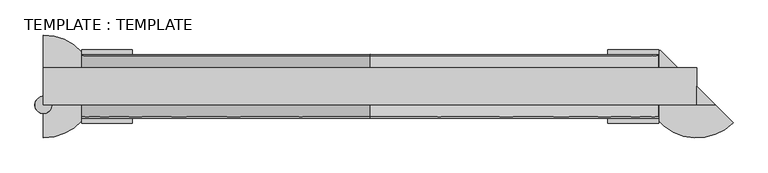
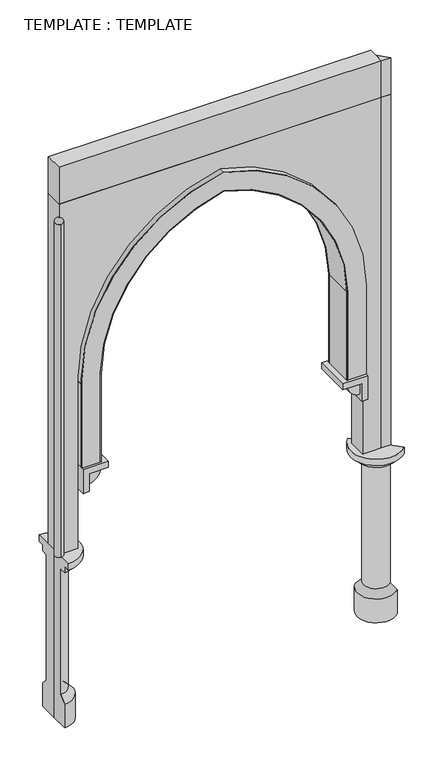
"""IFC4 building model written with IfcOpenShell, lengths in millimetres: plate geometry, TEMPLATE : TEMPLATE."""

from ifc_helpers import new_model, si_unit, point, frame, frame_2d, origin, place, context, project, spatial, polyline, circle_curve, ellipse_curve, trimmed, segment, composite_curve, outline, extrude, source, transform, mapped, element, save
from ifc_brep_helpers import plane_surface, cylinder_surface, revolved_surface, advanced_brep


def template_template_36c4455a(model_context):
    return source(origin(), model_context, "Body", "SolidModel", [
        extrude(outline(polyline([(1321.2450521, -71.2450521), (1250.0, -71.2450521), (1250.0, 0.0), (1321.2450521, -71.2450521)])), frame((0.0, 0.0, 4250.0), z_axis=(0.0, 0.0, 1.0), x_axis=(1.0, 0.0, 0.0)), (0.0, 0.0, 1.0), 300.0),
        extrude(outline(polyline([(1250.0, 71.2450521), (1250.0, -71.2450521), (-1250.0, -71.2450521), (-1250.0, 71.2450521), (1250.0, 71.2450521)])), frame((0.0, 0.0, 4250.0), z_axis=(0.0, 0.0, 1.0), x_axis=(1.0, 0.0, 0.0)), (0.0, 0.0, 1.0), 300.0),
        advanced_brep(
        [(-1250.0, -38.7797743, 4103.90625), (-1250.0, -103.7103299, 4103.90625)],
        [
            (0, 1, circle_curve(frame((-1250.0, -71.2450521, 4103.90625), z_axis=(0.0, 0.0, -1.0), x_axis=(-1.0, 0.0, 0.0)), 32.4652778)),
            (1, 0),
            (1, 0, circle_curve(frame((-1250.0, -71.2450521, 4103.90625), z_axis=(0.0, 0.0, -1.0), x_axis=(1.0, 0.0, 0.0)), 32.4652778)),
        ],
        [
            plane_surface(frame((-1250.0, 122.2362565, 4103.90625), z_axis=(0.0, 0.0, -1.0), x_axis=(1.0, 0.0, 0.0))),
            plane_surface(frame((-1250.0, 122.2362565, 4103.90625), z_axis=(0.0, 0.0, -1.0), x_axis=(-1.0, 0.0, 0.0))),
            revolved_surface(trimmed(ellipse_curve(frame((-1250.0, -71.2450521, 4103.90625), z_axis=(0.0, 0.0, -1.0), x_axis=(-1.0, 0.0, 0.0)), 32.4652778, 32.4652778), [point((-1250.0, -38.7797743, 4103.90625))], [point((-1250.0, -103.7103299, 4103.90625))], True, "CARTESIAN"), (-1250.0, 122.2362565, 4103.90625), (0.0, -1.0, 0.0)),
        ],
        [
            (0, [[1, 2]]),
            (1, [[-2, 3]]),
            (2, [[-3, -1]]),
        ],
    ),
        extrude(outline(composite_curve([segment(trimmed(circle_curve(frame_2d((-1250.0, -71.2450521)), 32.4652778), [point((-1250.0, -103.7103299))], [point((-1250.0, -38.7797743))], False, "CARTESIAN"), True, "CONTINUOUS"), segment(trimmed(circle_curve(frame_2d((-1250.0, -71.2450521)), 32.4652778), [point((-1250.0, -38.7797743))], [point((-1250.0, -103.7103299))], False, "CARTESIAN"), True, "CONTINUOUS")], self_intersect=False)), frame((0.0, 0.0, 1375.0), z_axis=(0.0, 0.0, 1.0), x_axis=(1.0, 0.0, 0.0)), (0.0, 0.0, 1.0), 2728.90625),
        extrude(outline(composite_curve([segment(polyline([(2062.5, -1103.90625), (2062.5, -952.8125), (2789.7201638, -952.8125)]), True, "CONTINUOUS"), segment(trimmed(circle_curve(frame_2d((2770.9553186, 249.8536177)), 1202.8125), [point((2789.7201638, -952.8125))], [point((3947.5313169, 0.0))], True, "CARTESIAN"), True, "CONTINUOUS"), segment(trimmed(circle_curve(frame_2d((2770.9553186, -249.8536177)), 1202.8125), [point((3947.5313169, 0.0))], [point((2789.7201638, 952.8125))], True, "CARTESIAN"), True, "CONTINUOUS"), segment(polyline([(2789.7201638, 952.8125), (2062.5, 952.8125), (2062.5, 1103.90625), (2751.0466695, 1103.90625)]), True, "CONTINUOUS"), segment(trimmed(circle_curve(frame_2d((2770.9553186, -249.8536177)), 1353.90625), [point((2751.0466695, 1103.90625))], [point((4101.6075284, 0.0))], False, "CARTESIAN"), True, "CONTINUOUS"), segment(trimmed(circle_curve(frame_2d((2770.9553186, 249.8536177)), 1353.90625), [point((4101.6075284, 0.0))], [point((2751.0466695, -1103.90625))], False, "CARTESIAN"), True, "CONTINUOUS"), segment(polyline([(2751.0466695, -1103.90625), (2062.5, -1103.90625)]), True, "CONTINUOUS")], self_intersect=False)), frame((0.0, 116.8675781, 0.0), z_axis=(0.0, 1.0, 0.0), x_axis=(0.0, 0.0, 1.0)), (0.0, 0.0, 1.0), 5.0),
        extrude(outline(polyline([(1250.0, 0.0), (1321.2450521, -71.2450521), (1250.0, -71.2450521), (1250.0, 0.0)])), frame((0.0, 0.0, 1375.0), z_axis=(0.0, 0.0, 1.0), x_axis=(1.0, 0.0, 0.0)), (0.0, 0.0, 1.0), 2875.0),
        extrude(outline(composite_curve([segment(polyline([(2789.6812853, 952.813106), (2789.7591277, 957.8125)]), True, "CONTINUOUS"), segment(trimmed(circle_curve(frame_2d((2770.9553186, -249.8536177)), 1207.8125), [point((2789.7591277, 957.8125))], [point((3952.642335, 0.0))], False, "CARTESIAN"), True, "CONTINUOUS"), segment(trimmed(circle_curve(frame_2d((2770.9553186, 249.8536177)), 1207.8125), [point((3952.642335, 0.0))], [point((2789.7591277, -957.8125))], False, "CARTESIAN"), True, "CONTINUOUS"), segment(polyline([(2789.7591277, -957.8125), (2789.6812853, -952.813106)]), True, "CONTINUOUS"), segment(trimmed(circle_curve(frame_2d((2770.9553186, 249.8536177)), 1202.8125), [point((2789.6812853, -952.813106))], [point((3947.5313169, 0.0))], True, "CARTESIAN"), True, "CONTINUOUS"), segment(trimmed(circle_curve(frame_2d((2770.9553186, -249.8536177)), 1202.8125), [point((3947.5313169, 0.0))], [point((2789.6812853, 952.813106))], True, "CARTESIAN"), True, "CONTINUOUS")], self_intersect=False)), frame((0.0, -121.8675781, 0.0), z_axis=(0.0, 1.0, 0.0), x_axis=(0.0, 0.0, 1.0)), (0.0, 0.0, 1.0), 238.7351563),
        extrude(outline(polyline([(957.8125, 116.8675781), (957.8125, -121.8675781), (952.8125, -121.8675781), (952.8125, 116.8675781), (957.8125, 116.8675781)])), frame((0.0, 0.0, 2062.5), z_axis=(0.0, 0.0, 1.0), x_axis=(1.0, 0.0, 0.0)), (0.0, 0.0, 1.0), 727.2591277),
        extrude(outline(polyline([(-952.8125, 116.8675781), (-952.8125, -121.8675781), (-957.8125, -121.8675781), (-957.8125, 116.8675781), (-952.8125, 116.8675781)])), frame((0.0, 0.0, 2062.5), z_axis=(0.0, 0.0, 1.0), x_axis=(1.0, 0.0, 0.0)), (0.0, 0.0, 1.0), 727.2591277),
        extrude(outline(composite_curve([segment(polyline([(2013.8020833, 1055.2083333), (2013.8020833, 957.8125)]), True, "CONTINUOUS"), segment(trimmed(circle_curve(frame_2d((2013.8020833, 1055.2083333)), 97.3958333), [point((2013.8020833, 957.8125))], [point((1916.40625, 1055.2083333))], False, "CARTESIAN"), True, "CONTINUOUS"), segment(polyline([(1916.40625, 1055.2083333), (2013.8020833, 1055.2083333)]), True, "CONTINUOUS")], self_intersect=False)), frame((0.0, -121.8675781, 0.0), z_axis=(0.0, 1.0, 0.0), x_axis=(0.0, 0.0, 1.0)), (0.0, 0.0, 1.0), 238.7351563),
        extrude(outline(composite_curve([segment(polyline([(2013.8020833, -1055.2083333), (1916.40625, -1055.2083333)]), True, "CONTINUOUS"), segment(trimmed(circle_curve(frame_2d((2013.8020833, -1055.2083333)), 97.3958333), [point((1916.40625, -1055.2083333))], [point((2013.8020833, -957.8125))], False, "CARTESIAN"), True, "CONTINUOUS"), segment(polyline([(2013.8020833, -957.8125), (2013.8020833, -1055.2083333)]), True, "CONTINUOUS")], self_intersect=False)), frame((0.0, -121.8675781, 0.0), z_axis=(0.0, 1.0, 0.0), x_axis=(0.0, 0.0, 1.0)), (0.0, 0.0, 1.0), 238.7351563),
        advanced_brep(
        [(-1250.0, 196.7395833, 1375.0), (-1250.0, 196.7395833, 1324.3541667), (-1250.0, 146.09375, 1324.3541667), (-1250.0, 146.09375, 1273.7083333), (-1250.0, 97.3958333, 1273.7083333), (-1250.0, 97.3958333, 245.4375), (-1250.0, 146.09375, 194.7916667), (-1250.0, 146.09375, 0.0), (-1250.0, 0.0, 0.0), (-1250.0, 0.0, 1375.0), (-1250.0, -196.7395833, 1375.0), (-1250.0, -146.09375, 0.0), (-1250.0, -146.09375, 194.7916667), (-1250.0, -97.3958333, 245.4375), (-1250.0, -97.3958333, 1273.7083333), (-1250.0, -146.09375, 1273.7083333), (-1250.0, -146.09375, 1324.3541667), (-1250.0, -196.7395833, 1324.3541667)],
        [
            (0, 1),
            (1, 2),
            (2, 3),
            (3, 4),
            (4, 5),
            (5, 6),
            (6, 7),
            (7, 8),
            (8, 9),
            (9, 0),
            (10, 9),
            (8, 11),
            (11, 12),
            (12, 13),
            (13, 14),
            (14, 15),
            (15, 16),
            (16, 17),
            (17, 10),
            (17, 1, circle_curve(frame((-1250.0, 0.0, 1324.3541667), z_axis=(0.0, 0.0, 1.0), x_axis=(0.0, 1.0000000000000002, 0.0)), 196.7395833)),
            (0, 10, circle_curve(frame((-1250.0, 0.0, 1375.0), z_axis=(0.0, 0.0, -1.0), x_axis=(0.0, 1.0000000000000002, 0.0)), 196.7395833)),
            (16, 2, circle_curve(frame((-1250.0, 0.0, 1324.3541667), z_axis=(0.0, 0.0, 1.0), x_axis=(0.0, 1.0000000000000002, 0.0)), 146.09375)),
            (15, 3, circle_curve(frame((-1250.0, 0.0, 1273.7083333), z_axis=(0.0, 0.0, 1.0), x_axis=(0.0, 1.0000000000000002, 0.0)), 146.09375)),
            (14, 4, circle_curve(frame((-1250.0, 0.0, 1273.7083333), z_axis=(0.0, 0.0, 1.0), x_axis=(0.0, 1.0000000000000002, 0.0)), 97.3958333)),
            (13, 5, circle_curve(frame((-1250.0, 0.0, 245.4375), z_axis=(0.0, 0.0, 1.0), x_axis=(0.0, 1.0000000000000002, 0.0)), 97.3958333)),
            (12, 6, circle_curve(frame((-1250.0, 0.0, 194.7916667), z_axis=(0.0, 0.0, 1.0), x_axis=(0.0, 1.0000000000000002, 0.0)), 146.09375)),
            (11, 7, circle_curve(frame((-1250.0, 0.0, 0.0), z_axis=(0.0, 0.0, 1.0), x_axis=(0.0, 1.0000000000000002, 0.0)), 146.09375)),
        ],
        [
            plane_surface(frame((-1250.0, 0.0, -1400.0), z_axis=(-1.0, 0.0, 0.0), x_axis=(0.0, 1.0, 0.0))),
            plane_surface(frame((-1250.0, 0.0, -1400.0), z_axis=(-1.0, 0.0, 0.0), x_axis=(0.0, -1.0, 0.0))),
            cylinder_surface(frame((-1250.0, 0.0, -1400.0), z_axis=(0.0, 0.0, 1.0), x_axis=(0.0, 1.0000000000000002, 0.0)), 196.7395833),
            plane_surface(frame((-1250.0, 0.0, 1324.3541667), z_axis=(0.0, 0.0, -1.0), x_axis=(0.0, 1.0, 0.0))),
            cylinder_surface(frame((-1250.0, 0.0, -1400.0), z_axis=(0.0, 0.0, 1.0), x_axis=(0.0, 1.0000000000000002, 0.0)), 146.09375),
            plane_surface(frame((-1250.0, 0.0, 1273.7083333), z_axis=(0.0, 0.0, -1.0), x_axis=(0.0, 1.0, 0.0))),
            cylinder_surface(frame((-1250.0, 0.0, -1400.0), z_axis=(0.0, 0.0, 1.0), x_axis=(0.0, 1.0000000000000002, 0.0)), 97.3958333),
            revolved_surface(polyline([(-1250.0, 146.09375, 194.7916667), (-1250.0, 97.3958333, 245.4375)]), (-1250.0, 0.0, -1400.0), (0.0, 0.0, 1.0)),
            plane_surface(frame((-1250.0, 0.0, 0.0), z_axis=(0.0, 0.0, -1.0), x_axis=(0.0, 1.0, 0.0))),
            plane_surface(frame((-1250.0, 0.0, 1375.0), z_axis=(0.0, 0.0, 1.0), x_axis=(0.0, 1.0, 0.0))),
        ],
        [
            (0, [[1, 2, 3, 4, 5, 6, 7, 8, 9, 10]]),
            (1, [[11, -9, 12, 13, 14, 15, 16, 17, 18, 19]]),
            (2, [[-19, 20, -1, 21]]),
            (3, [[-18, 22, -2, -20]]),
            (4, [[-17, 23, -3, -22]]),
            (5, [[-16, 24, -4, -23]]),
            (6, [[-15, 25, -5, -24]]),
            (7, [[-14, 26, -6, -25]]),
            (4, [[-13, 27, -7, -26]]),
            (8, [[-12, -8, -27]]),
            (9, [[-11, -21, -10]]),
        ],
    ),
        extrude(outline(polyline([(2062.5, 1103.90625), (2062.5, 909.1145833), (2013.8020833, 909.1145833), (2013.8020833, 1055.2083333), (1867.7083333, 1055.2083333), (1867.7083333, 1103.90625), (2062.5, 1103.90625)])), frame((0.0, -141.2165365, 0.0), z_axis=(0.0, 1.0, 0.0), x_axis=(0.0, 0.0, 1.0)), (0.0, 0.0, 1.0), 282.4330729),
        extrude(outline(polyline([(2062.5, -1103.90625), (1867.7083333, -1103.90625), (1867.7083333, -1055.2083333), (2013.8020833, -1055.2083333), (2013.8020833, -909.1145833), (2062.5, -909.1145833), (2062.5, -1103.90625)])), frame((0.0, -141.2165365, 0.0), z_axis=(0.0, 1.0, 0.0), x_axis=(0.0, 0.0, 1.0)), (0.0, 0.0, 1.0), 282.4330729),
        advanced_brep(
        [(1110.8841065, 139.1158935, 1375.0), (1250.0, 0.0, 1375.0), (1250.0, 0.0, 0.0), (1146.6961187, 103.3038813, 0.0), (1146.6961187, 103.3038813, 194.7916667), (1181.1307458, 68.8692542, 245.4375), (1181.1307458, 68.8692542, 1273.7083333), (1146.6961187, 103.3038813, 1273.7083333), (1146.6961187, 103.3038813, 1324.3541667), (1110.8841065, 139.1158935, 1324.3541667), (1389.1158935, -139.1158935, 1375.0), (1389.1158935, -139.1158935, 1324.3541667), (1353.3038813, -103.3038813, 1324.3541667), (1353.3038813, -103.3038813, 1273.7083333), (1318.8692542, -68.8692542, 1273.7083333), (1318.8692542, -68.8692542, 245.4375), (1353.3038813, -103.3038813, 194.7916667), (1353.3038813, -103.3038813, 0.0)],
        [
            (0, 1),
            (1, 2),
            (2, 3),
            (3, 4),
            (4, 5),
            (5, 6),
            (6, 7),
            (7, 8),
            (8, 9),
            (9, 0),
            (10, 11),
            (11, 12),
            (12, 13),
            (13, 14),
            (14, 15),
            (15, 16),
            (16, 17),
            (17, 2),
            (1, 10),
            (10, 0, circle_curve(frame((1250.0, 0.0, 1375.0), z_axis=(0.0, 0.0, -1.0), x_axis=(-0.7071067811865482, 0.707106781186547, 0.0)), 196.7395833)),
            (9, 11, circle_curve(frame((1250.0, 0.0, 1324.3541667), z_axis=(0.0, 0.0, 1.0), x_axis=(-0.7071067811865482, 0.707106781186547, 0.0)), 196.7395833)),
            (8, 12, circle_curve(frame((1250.0, 0.0, 1324.3541667), z_axis=(0.0, 0.0, 1.0), x_axis=(-0.7071067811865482, 0.707106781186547, 0.0)), 146.09375)),
            (7, 13, circle_curve(frame((1250.0, 0.0, 1273.7083333), z_axis=(0.0, 0.0, 1.0), x_axis=(-0.7071067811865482, 0.707106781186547, 0.0)), 146.09375)),
            (6, 14, circle_curve(frame((1250.0, 0.0, 1273.7083333), z_axis=(0.0, 0.0, 1.0), x_axis=(-0.7071067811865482, 0.707106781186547, 0.0)), 97.3958333)),
            (5, 15, circle_curve(frame((1250.0, 0.0, 245.4375), z_axis=(0.0, 0.0, 1.0), x_axis=(-0.7071067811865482, 0.707106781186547, 0.0)), 97.3958333)),
            (4, 16, circle_curve(frame((1250.0, 0.0, 194.7916667), z_axis=(0.0, 0.0, 1.0), x_axis=(-0.7071067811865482, 0.707106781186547, 0.0)), 146.09375)),
            (3, 17, circle_curve(frame((1250.0, 0.0, 0.0), z_axis=(0.0, 0.0, 1.0), x_axis=(-0.7071067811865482, 0.707106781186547, 0.0)), 146.09375)),
        ],
        [
            plane_surface(frame((1250.0, 0.0, -1400.0), z_axis=(0.707106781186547, 0.7071067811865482, 0.0), x_axis=(-0.7071067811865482, 0.707106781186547, 0.0))),
            plane_surface(frame((1250.0, 0.0, -1400.0), z_axis=(0.7071067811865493, 0.7071067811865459, 0.0), x_axis=(0.7071067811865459, -0.7071067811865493, 0.0))),
            cylinder_surface(frame((1250.0, 0.0, -1400.0), z_axis=(0.0, 0.0, -1.0), x_axis=(-0.7071067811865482, 0.707106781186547, 0.0)), 196.7395833),
            plane_surface(frame((1250.0, 0.0, 1324.3541667), z_axis=(0.0, 0.0, -1.0000000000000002), x_axis=(-0.7071067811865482, 0.707106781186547, 0.0))),
            cylinder_surface(frame((1250.0, 0.0, -1400.0), z_axis=(0.0, 0.0, -1.0), x_axis=(-0.7071067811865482, 0.707106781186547, 0.0)), 146.09375),
            plane_surface(frame((1250.0, 0.0, 1273.7083333), z_axis=(0.0, 0.0, -1.0000000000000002), x_axis=(-0.7071067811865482, 0.707106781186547, 0.0))),
            cylinder_surface(frame((1250.0, 0.0, -1400.0), z_axis=(0.0, 0.0, -1.0), x_axis=(-0.7071067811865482, 0.707106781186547, 0.0)), 97.3958333),
            revolved_surface(polyline([(1181.1307458, 68.8692542, 245.4375), (1146.6961187, 103.3038813, 194.7916667)]), (1250.0, 0.0, -1400.0), (0.0, 0.0, -1.0)),
            plane_surface(frame((1250.0, 0.0, 0.0), z_axis=(0.0, 0.0, -1.0000000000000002), x_axis=(-0.7071067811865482, 0.707106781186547, 0.0))),
            plane_surface(frame((1250.0, 0.0, 1375.0), z_axis=(0.0, 0.0, 1.0000000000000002), x_axis=(-0.7071067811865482, 0.707106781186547, 0.0))),
        ],
        [
            (0, [[1, 2, 3, 4, 5, 6, 7, 8, 9, 10]]),
            (1, [[11, 12, 13, 14, 15, 16, 17, 18, -2, 19]]),
            (2, [[-11, 20, -10, 21]]),
            (3, [[-12, -21, -9, 22]]),
            (4, [[-13, -22, -8, 23]]),
            (5, [[-14, -23, -7, 24]]),
            (6, [[-15, -24, -6, 25]]),
            (7, [[-16, -25, -5, 26]]),
            (4, [[-17, -26, -4, 27]]),
            (8, [[-18, -27, -3]]),
            (9, [[-19, -1, -20]]),
        ],
    ),
        extrude(outline(composite_curve([segment(polyline([(1375.0, 1250.0), (4250.0, 1250.0), (4250.0, -1250.0), (1375.0, -1250.0), (1375.0, -1103.90625), (2790.8639676, -1103.90625)]), True, "CONTINUOUS"), segment(trimmed(circle_curve(frame_2d((2770.9553186, 249.8536177)), 1353.90625), [point((2790.8639676, -1103.90625))], [point((4101.6075284, 0.0))], True, "CARTESIAN"), True, "CONTINUOUS"), segment(trimmed(circle_curve(frame_2d((2770.9553186, -249.8536177)), 1353.90625), [point((4101.6075284, 0.0))], [point((2790.8639676, 1103.90625))], True, "CARTESIAN"), True, "CONTINUOUS"), segment(polyline([(2790.8639676, 1103.90625), (1375.0, 1103.90625), (1375.0, 1250.0)]), True, "CONTINUOUS")], self_intersect=False)), frame((0.0, -71.2450521, 0.0), z_axis=(0.0, 1.0, 0.0), x_axis=(0.0, 0.0, 1.0)), (0.0, 0.0, 1.0), 142.4901042),
        extrude(outline(composite_curve([segment(trimmed(circle_curve(frame_2d((2770.9553186, 249.8536177)), 1353.90625), [point((4101.6075284, 0.0))], [point((2790.8639676, -1103.90625))], False, "CARTESIAN"), True, "CONTINUOUS"), segment(polyline([(2790.8639676, -1103.90625), (2062.5, -1103.90625), (2062.5, -957.8125), (2789.7591277, -957.8125)]), True, "CONTINUOUS"), segment(trimmed(circle_curve(frame_2d((2770.9553186, 249.8536177)), 1207.8125), [point((2789.7591277, -957.8125))], [point((3952.642335, 0.0))], True, "CARTESIAN"), True, "CONTINUOUS"), segment(trimmed(circle_curve(frame_2d((2770.9553186, -249.8536177)), 1207.8125), [point((3952.642335, 0.0))], [point((2789.7591277, 957.8125))], True, "CARTESIAN"), True, "CONTINUOUS"), segment(polyline([(2789.7591277, 957.8125), (2062.5, 957.8125), (2062.5, 1103.90625), (2790.8639676, 1103.90625)]), True, "CONTINUOUS"), segment(trimmed(circle_curve(frame_2d((2770.9553186, -249.8536177)), 1353.90625), [point((2790.8639676, 1103.90625))], [point((4101.6075284, 0.0))], False, "CARTESIAN"), True, "CONTINUOUS")], self_intersect=False)), frame((0.0, -121.8675781, 0.0), z_axis=(0.0, 1.0, 0.0), x_axis=(0.0, 0.0, 1.0)), (0.0, 0.0, 1.0), 5.0),
        extrude(outline(polyline([(-957.8125, -116.8675781), (-1103.90625, -116.8675781), (-1103.90625, 116.8675781), (-957.8125, 116.8675781), (-957.8125, -116.8675781)])), frame((0.0, 0.0, 2062.5), z_axis=(0.0, 0.0, 1.0), x_axis=(1.0, 0.0, 0.0)), (0.0, 0.0, 1.0), 687.5),
        extrude(outline(polyline([(957.8125, -116.8675781), (957.8125, 116.8675781), (1103.90625, 116.8675781), (1103.90625, -116.8675781), (957.8125, -116.8675781)])), frame((0.0, 0.0, 2062.5), z_axis=(0.0, 0.0, 1.0), x_axis=(1.0, 0.0, 0.0)), (0.0, 0.0, 1.0), 687.5),
        extrude(outline(composite_curve([segment(polyline([(2752.0409607, -1103.920507), (2754.0819214, -957.841014)]), True, "CONTINUOUS"), segment(trimmed(circle_curve(frame_2d((2770.9553186, 249.8536177)), 1207.8125), [point((2754.0819214, -957.841014))], [point((3952.642335, 0.0))], True, "CARTESIAN"), True, "CONTINUOUS"), segment(trimmed(circle_curve(frame_2d((2770.9553186, -249.8536177)), 1207.8125), [point((3952.642335, 0.0))], [point((2754.0819214, 957.841014))], True, "CARTESIAN"), True, "CONTINUOUS"), segment(polyline([(2754.0819214, 957.841014), (2752.0409607, 1103.920507)]), True, "CONTINUOUS"), segment(trimmed(circle_curve(frame_2d((2770.9553186, -249.8536177)), 1353.90625), [point((2752.0409607, 1103.920507))], [point((4101.6075284, 0.0))], False, "CARTESIAN"), True, "CONTINUOUS"), segment(trimmed(circle_curve(frame_2d((2770.9553186, 249.8536177)), 1353.90625), [point((4101.6075284, 0.0))], [point((2752.0409607, -1103.920507))], False, "CARTESIAN"), True, "CONTINUOUS")], self_intersect=False)), frame((0.0, -116.8675781, 0.0), z_axis=(0.0, 1.0, 0.0), x_axis=(0.0, 0.0, 1.0)), (0.0, 0.0, 1.0), 233.7351563),
    ])


if __name__ == "__main__":
    model = new_model("IFC4")
    model_context = context("Model", 3, world=origin())
    ifc_project = project(units=[si_unit("LENGTHUNIT", "METRE", prefix="MILLI")], contexts=[model_context])
    site = spatial("IfcSite", under=ifc_project)
    building = spatial("IfcBuilding", under=site)
    placement = place(None, origin())
    template_template_shape = template_template_36c4455a(model_context)
    element("IfcPlate", 1, ObjectType="TEMPLATE : TEMPLATE", at=placement, inside=building, context=model_context, shape_type="MappedRepresentation", body=[
        mapped(template_template_shape, transform((0.0, 0.0, 0.0), x_axis=(1.0, 0.0, 0.0), y_axis=(0.0, 1.0, 0.0), z_axis=(0.0, 0.0, 1.0))),
    ])
    save(model, "model.ifc")
